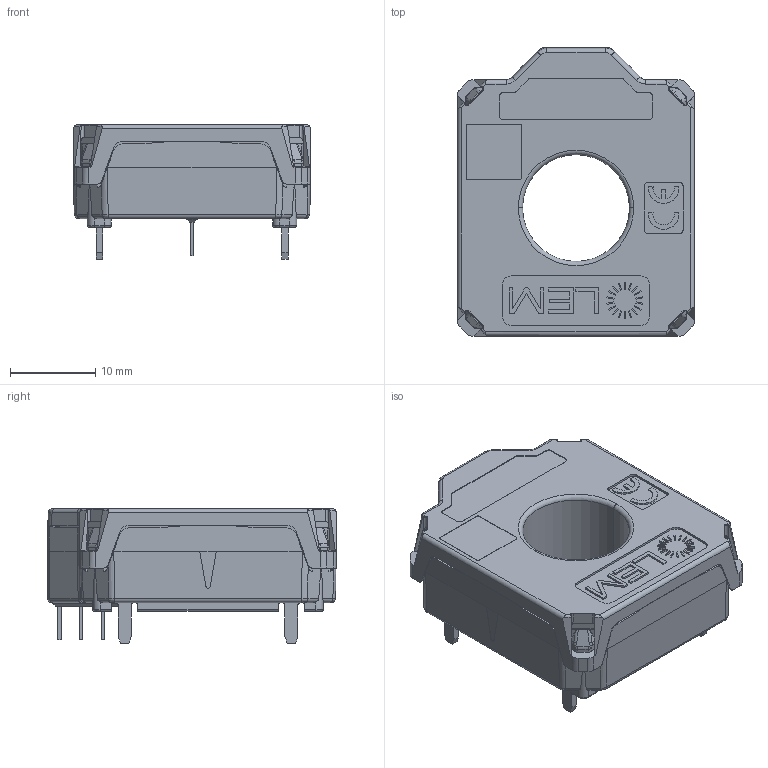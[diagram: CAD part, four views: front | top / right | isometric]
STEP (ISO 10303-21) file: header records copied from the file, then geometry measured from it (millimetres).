
FILE_DESCRIPTION(('Creo Elements/Direct Modeling STEP Export'),'2;1');
FILE_NAME('HC5FW_XXX-S-SP1_20140324.stp','2014-03-25T 9:00:33',(''),(''),'Creo Elements/Direct Modeling STEP processor for AP214 (Solid Model)','Creo Elements/Direct Modeling 17.0E 05-Feb-2012 (C) Parametric Technology GmbH','');
FILE_SCHEMA(('AUTOMOTIVE_DESIGN { 1 0 10303 214 1 1 1 1 }'));
Length unit declared in the file: millimetre
Products named in the file (2): HC5FW_XXX-S-SP1_20140324
Assembly tree (1 placements, depth 2):
  HC5FW_XXX-S-SP1_20140324
    HC5FW_XXX-S-SP1_20140324
Bounding box: 27.7 x 33.75 x 15.76 mm (x, y, z)
Volume: 8073 mm3; surface area: 4183.8 mm2
Topology: 1 solids, 19 shells, 1003 faces, 2712 edges, 1771 vertices
Faces by surface type: plane 630, cylinder 291, bspline 58, torus 22, cone 2
Entity records: 46657 total; most frequent: CARTESIAN_POINT 13669, ORIENTED_EDGE 5424, DIRECTION 4737, EDGE_CURVE 2712, VECTOR 1877, LINE 1877, VERTEX_POINT 1771, AXIS2_PLACEMENT_3D 1430
